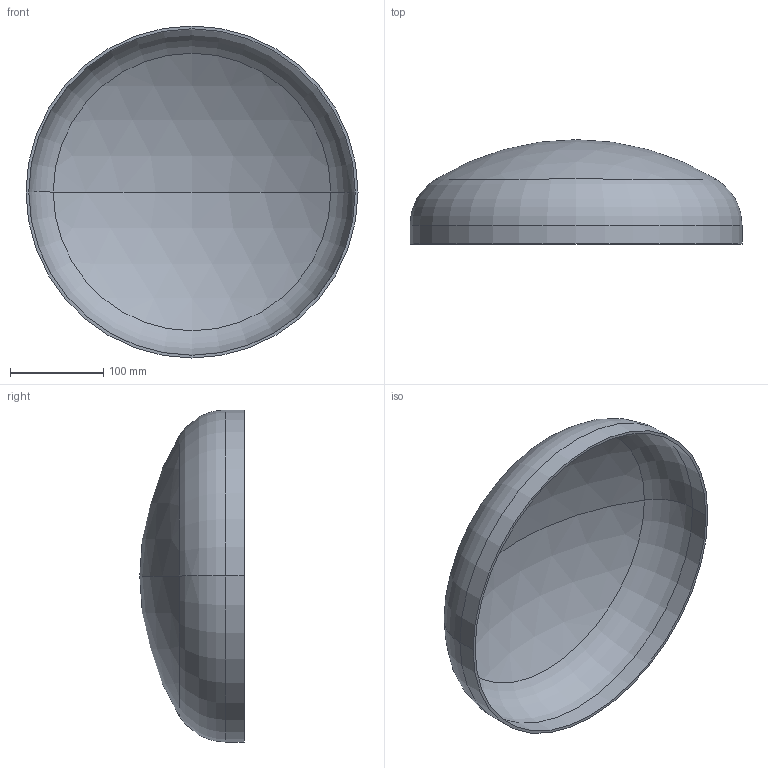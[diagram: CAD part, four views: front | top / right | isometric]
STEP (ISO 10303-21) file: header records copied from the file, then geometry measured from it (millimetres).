
FILE_DESCRIPTION (( 'STEP AP203' ), '1' );
FILE_NAME ('DIN 28013 Korbbogenform_-_Boden DIN 28013 - 355,6 x 20 - I - s=3.step', '2016-07-01T07:45:54', ( '' ), ( '' ), 'SwSTEP 2.0', 'SolidWorks 2013', '' );
FILE_SCHEMA (( 'CONFIG_CONTROL_DESIGN' ));
Length unit declared in the file: millimetre
Products named in the file (1): DIN 28013 Korbbogenform_-_Boden DIN 28013 - 355,6 x 20 - I - s=3
Bounding box: 355.6 x 111.84 x 355.6 mm (x, y, z)
Volume: 474947.7 mm3; surface area: 319973.7 mm2
Topology: 1 solids, 1 shells, 13 faces, 24 edges, 14 vertices
Faces by surface type: torus 4, cylinder 4, sphere 4, plane 1
Entity records: 407 total; most frequent: DIRECTION 72, CARTESIAN_POINT 52, ORIENTED_EDGE 48, AXIS2_PLACEMENT_3D 34, EDGE_CURVE 24, CIRCLE 20, EDGE_LOOP 14, VERTEX_POINT 14
